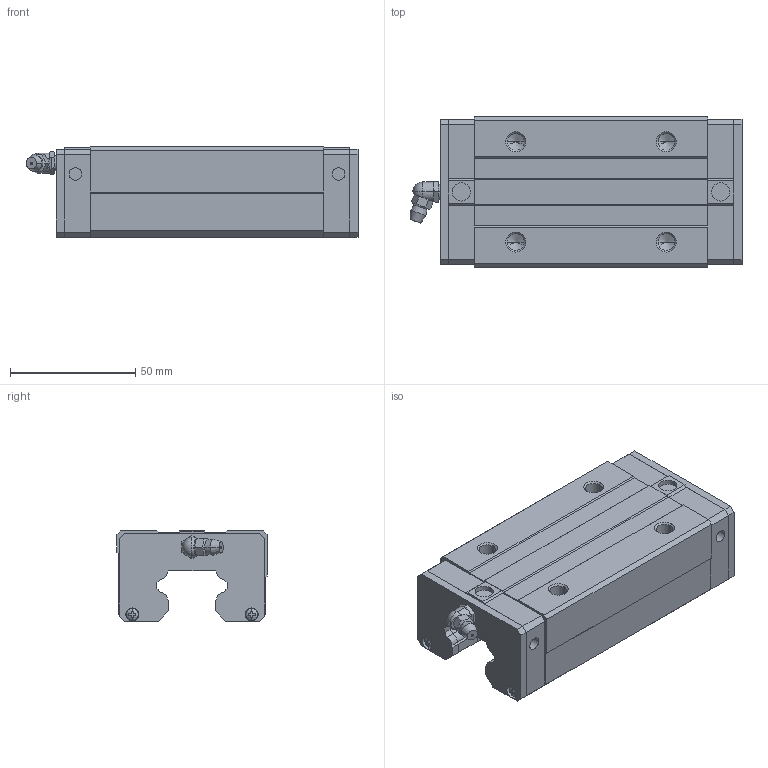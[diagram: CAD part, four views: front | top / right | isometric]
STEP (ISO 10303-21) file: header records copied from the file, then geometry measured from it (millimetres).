
FILE_DESCRIPTION(('starvars output'),'2;1');
FILE_NAME('cv20190625225754000112299.stp','22:57:55 2019/06/25',( 'Thomas Industrial Network Germany GmbH'),( 'Thomas Industrial Network Germany GmbH'),'unknown preprocess','ACIS' ,'unknown authorization');
FILE_SCHEMA(('CONFIG_CONTROL_DESIGN {UNKNOWN IMPLEMENTATION LEVEL}'));
Length unit declared in the file: millimetre
Products named in the file (10): PRODUCT_ID_1; PRODUCT_ID_2; PRODUCT_ID_3; PRODUCT_ID_4; PRODUCT_ID_5; PRODUCT_ID_6; PRODUCT_ID_7; PRODUCT_ID_8; PRODUCT_ID_9; PRODUCT_ID_10
Bounding box: 132.4 x 60 x 36 mm (x, y, z)
Volume: 197402.6 mm3; surface area: 46471.3 mm2
Topology: 10 solids, 10 shells, 379 faces, 962 edges, 612 vertices
Faces by surface type: plane 240, cone 64, cylinder 63, sphere 12
Entity records: 10951 total; most frequent: ORIENTED_EDGE 1900, CARTESIAN_POINT 1789, DIRECTION 1489, EDGE_CURVE 950, VECTOR 613, LINE 613, VERTEX_POINT 612, AXIS2_PLACEMENT_3D 438
